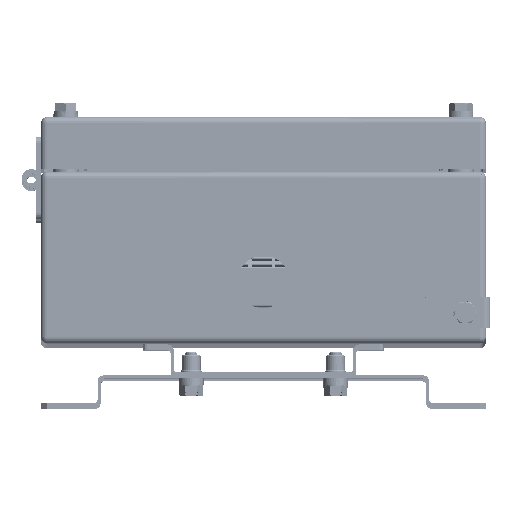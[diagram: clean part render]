
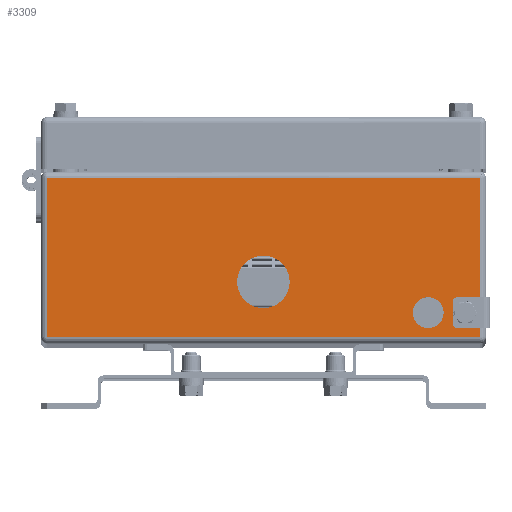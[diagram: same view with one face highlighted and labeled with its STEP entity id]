
A CAD part, top view. The second image highlights one B-rep face of the part: STEP entity #3309.
In plain terms, the highlighted planar face has unit normal (0, 0, 1).
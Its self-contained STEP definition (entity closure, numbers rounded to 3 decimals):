
#3202=CARTESIAN_POINT('',(87.5,-26.75,648.));
#3203=VERTEX_POINT('',#3202);
#3204=CARTESIAN_POINT('',(80.0,-26.75,648.));
#3205=DIRECTION('',(0.0,0.0,-1.0));
#3206=DIRECTION('',(-1.0,0.0,0.0));
#3207=AXIS2_PLACEMENT_3D('',#3204,#3205,#3206);
#3208=CIRCLE('',#3207,7.5);
#3209=EDGE_CURVE('',#3203,#3203,#3208,.T.);
#3245=CARTESIAN_POINT('',(-103.565,-15.903,648.));
#3246=DIRECTION('',(0.0,0.0,1.0));
#3247=DIRECTION('',(1.0,0.0,0.0));
#3248=AXIS2_PLACEMENT_3D('',#3245,#3246,#3247);
#3249=PLANE('',#3248);
#3250=CARTESIAN_POINT('',(-105.0,-38.75,648.));
#3251=VERTEX_POINT('',#3250);
#3252=CARTESIAN_POINT('',(-105.0,38.75,648.));
#3253=VERTEX_POINT('',#3252);
#3254=CARTESIAN_POINT('',(-105.0,-38.75,648.));
#3255=DIRECTION('',(0.0,1.0,0.0));
#3256=VECTOR('',#3255,77.5);
#3257=LINE('',#3254,#3256);
#3258=EDGE_CURVE('',#3251,#3253,#3257,.T.);
#3259=ORIENTED_EDGE('',*,*,#3258,.F.);
#3260=CARTESIAN_POINT('',(105.0,-38.75,648.));
#3261=VERTEX_POINT('',#3260);
#3262=CARTESIAN_POINT('',(105.0,-38.75,648.));
#3263=DIRECTION('',(-1.0,0.0,0.0));
#3264=VECTOR('',#3263,210.0);
#3265=LINE('',#3262,#3264);
#3266=EDGE_CURVE('',#3261,#3251,#3265,.T.);
#3267=ORIENTED_EDGE('',*,*,#3266,.F.);
#3268=CARTESIAN_POINT('',(105.0,38.75,648.));
#3269=VERTEX_POINT('',#3268);
#3270=CARTESIAN_POINT('',(105.0,38.75,648.));
#3271=DIRECTION('',(0.0,-1.0,0.0));
#3272=VECTOR('',#3271,77.5);
#3273=LINE('',#3270,#3272);
#3274=EDGE_CURVE('',#3269,#3261,#3273,.T.);
#3275=ORIENTED_EDGE('',*,*,#3274,.F.);
#3276=CARTESIAN_POINT('',(-105.0,38.75,648.));
#3277=DIRECTION('',(1.0,0.0,0.0));
#3278=VECTOR('',#3277,210.0);
#3279=LINE('',#3276,#3278);
#3280=EDGE_CURVE('',#3253,#3269,#3279,.T.);
#3281=ORIENTED_EDGE('',*,*,#3280,.F.);
#3282=EDGE_LOOP('',(#3259,#3267,#3275,#3281));
#3283=FACE_OUTER_BOUND('',#3282,.T.);
#3284=CARTESIAN_POINT('',(12.75,-11.75,648.));
#3285=VERTEX_POINT('',#3284);
#3286=CARTESIAN_POINT('',(0.0,-11.75,648.));
#3287=DIRECTION('',(0.0,0.0,-1.0));
#3288=DIRECTION('',(1.0,0.0,0.0));
#3289=AXIS2_PLACEMENT_3D('',#3286,#3287,#3288);
#3290=CIRCLE('',#3289,12.75);
#3291=EDGE_CURVE('',#3285,#3285,#3290,.T.);
#3292=ORIENTED_EDGE('',*,*,#3291,.T.);
#3293=EDGE_LOOP('',(#3292));
#3294=FACE_BOUND('',#3293,.T.);
#3295=CARTESIAN_POINT('',(102.5,-26.75,648.));
#3296=VERTEX_POINT('',#3295);
#3297=CARTESIAN_POINT('',(98.0,-26.75,648.));
#3298=DIRECTION('',(0.0,0.0,-1.0));
#3299=DIRECTION('',(1.0,0.0,0.0));
#3300=AXIS2_PLACEMENT_3D('',#3297,#3298,#3299);
#3301=CIRCLE('',#3300,4.5);
#3302=EDGE_CURVE('',#3296,#3296,#3301,.T.);
#3303=ORIENTED_EDGE('',*,*,#3302,.T.);
#3304=EDGE_LOOP('',(#3303));
#3305=FACE_BOUND('',#3304,.T.);
#3306=ORIENTED_EDGE('',*,*,#3209,.T.);
#3307=EDGE_LOOP('',(#3306));
#3308=FACE_BOUND('',#3307,.T.);
#3309=ADVANCED_FACE('',(#3283,#3294,#3305,#3308),#3249,.T.);
